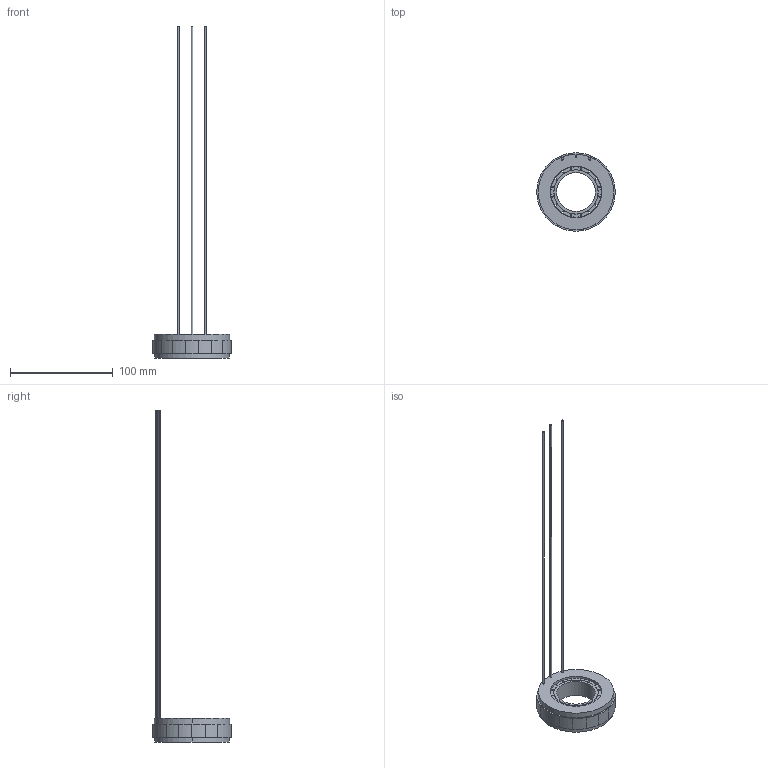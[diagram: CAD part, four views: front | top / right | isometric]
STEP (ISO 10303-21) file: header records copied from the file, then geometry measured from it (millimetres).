
FILE_DESCRIPTION (( 'STEP AP203' ), '1' );
FILE_NAME ('307070065SS（FMC07612-0029-3338N-8DK00）-V1.2.STEP', '2022-12-08T10:09:56', ( 'muse' ), ( 'muse' ), 'SwSTEP 2.0', 'SolidWorks 2022', '' );
FILE_SCHEMA (( 'CONFIG_CONTROL_DESIGN' ));
Length unit declared in the file: millimetre
Products named in the file (1): 307070065SS（FMC07612-0029-3338N-8DK00）-V1.2
Bounding box: 76.2 x 76.07 x 322.9 mm (x, y, z)
Volume: 59634.5 mm3; surface area: 47267.6 mm2
Topology: 37 solids, 37 shells, 555 faces, 1434 edges, 956 vertices
Faces by surface type: plane 361, cylinder 194
Entity records: 16953 total; most frequent: CARTESIAN_POINT 2946, DIRECTION 2934, ORIENTED_EDGE 2868, EDGE_CURVE 1434, LINE 1046, VECTOR 1046, VERTEX_POINT 956, AXIS2_PLACEMENT_3D 944
